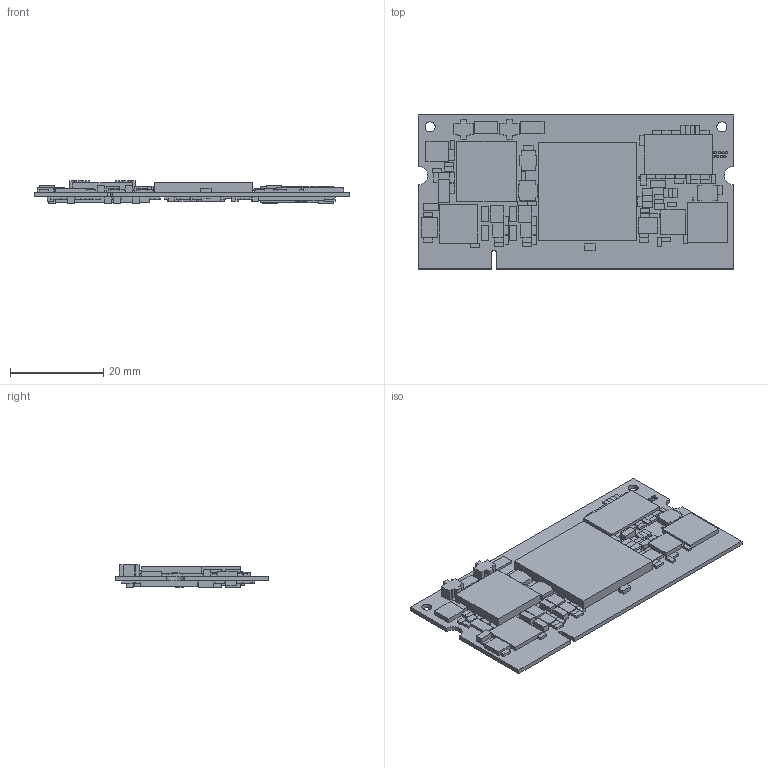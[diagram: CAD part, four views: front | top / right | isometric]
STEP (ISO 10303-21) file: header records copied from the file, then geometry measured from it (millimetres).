
FILE_DESCRIPTION (( 'STEP AP214' ), '1' );
FILE_NAME ('var_som_solo_FINAL.STEP', '2014-11-18T17:18:58', ( 'Lucky' ), ( '' ), 'SwSTEP 2.0', 'SolidWorks 2012', '' );
FILE_SCHEMA (( 'AUTOMOTIVE_DESIGN' ));
Length unit declared in the file: millimetre
Products named in the file (1): var_som_solo_FINAL
Bounding box: 67.6 x 32.99 x 4.9 mm (x, y, z)
Volume: 4847.5 mm3; surface area: 8823.8 mm2
Topology: 124 solids, 124 shells, 2239 faces, 5496 edges, 3664 vertices
Faces by surface type: plane 2168, cylinder 71
Entity records: 90230 total; most frequent: CARTESIAN_POINT 11400, ORIENTED_EDGE 10992, DIRECTION 10118, EDGE_CURVE 5496, LINE 5354, VECTOR 5354, VERTEX_POINT 3664, EDGE_LOOP 2402
